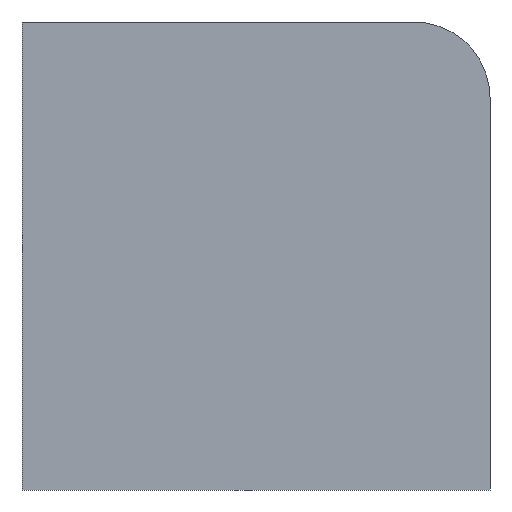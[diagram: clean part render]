
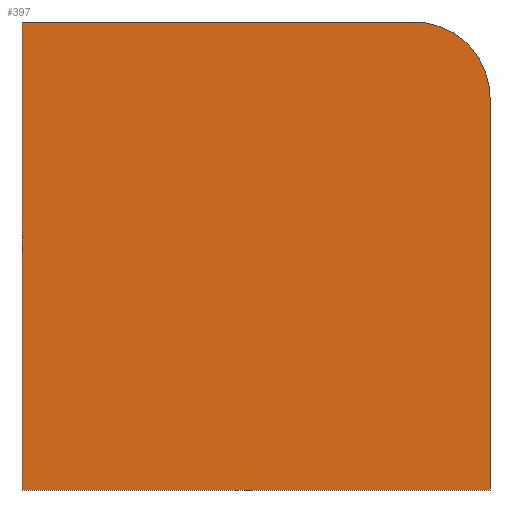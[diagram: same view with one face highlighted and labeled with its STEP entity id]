
A CAD part, front view. The second image highlights one B-rep face of the part: STEP entity #397.
In plain terms, the highlighted planar face has unit normal (0, -1, 0).
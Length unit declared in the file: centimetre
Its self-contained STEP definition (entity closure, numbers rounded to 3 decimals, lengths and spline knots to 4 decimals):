
#7 = CARTESIAN_POINT ( 'NONE',  ( 0., 0., 1000. ) ) ;
#8 = DIRECTION ( 'NONE',  ( 0., 0., -1. ) ) ;
#11 = VECTOR ( 'NONE', #180, 100. ) ;
#16 = PLANE ( 'NONE',  #297 ) ;
#36 = ORIENTED_EDGE ( 'NONE', *, *, #383, .F. ) ;
#40 = VECTOR ( 'NONE', #8, 100. ) ;
#48 = LINE ( 'NONE', #542, #216 ) ;
#56 = DIRECTION ( 'NONE',  ( 0., -1., 0. ) ) ;
#90 = DIRECTION ( 'NONE',  ( 0., 1., 0. ) ) ;
#100 = CIRCLE ( 'NONE', #281, 162.13 ) ;
#102 = CARTESIAN_POINT ( 'NONE',  ( 837.87, 0., 837.87 ) ) ;
#119 = VERTEX_POINT ( 'NONE', #355 ) ;
#159 = ORIENTED_EDGE ( 'NONE', *, *, #366, .T. ) ;
#180 = DIRECTION ( 'NONE',  ( 0., 0., -1. ) ) ;
#216 = VECTOR ( 'NONE', #464, 100. ) ;
#242 = EDGE_LOOP ( 'NONE', ( #36, #159, #417, #334, #331 ) ) ;
#245 = CARTESIAN_POINT ( 'NONE',  ( 1000., 0., 837.87 ) ) ;
#247 = VERTEX_POINT ( 'NONE', #245 ) ;
#249 = VERTEX_POINT ( 'NONE', #411 ) ;
#276 = CARTESIAN_POINT ( 'NONE',  ( 0., 0., 1000. ) ) ;
#281 = AXIS2_PLACEMENT_3D ( 'NONE', #102, #56, #403 ) ;
#297 = AXIS2_PLACEMENT_3D ( 'NONE', #302, #90, #441 ) ;
#302 = CARTESIAN_POINT ( 'NONE',  ( 0., 0., 1000. ) ) ;
#310 = DIRECTION ( 'NONE',  ( 1., 0., 0. ) ) ;
#331 = ORIENTED_EDGE ( 'NONE', *, *, #545, .T. ) ;
#334 = ORIENTED_EDGE ( 'NONE', *, *, #406, .T. ) ;
#345 = LINE ( 'NONE', #509, #11 ) ;
#348 = CARTESIAN_POINT ( 'NONE',  ( 837.87, 0., 1000. ) ) ;
#355 = CARTESIAN_POINT ( 'NONE',  ( 0., 0., 1000. ) ) ;
#358 = LINE ( 'NONE', #276, #40 ) ;
#366 = EDGE_CURVE ( 'NONE', #247, #500, #100, .T. ) ;
#383 = EDGE_CURVE ( 'NONE', #247, #249, #345, .T. ) ;
#391 = LINE ( 'NONE', #7, #438 ) ;
#397 = ADVANCED_FACE ( 'NONE', ( #524 ), #16, .F. ) ;
#403 = DIRECTION ( 'NONE',  ( 0., 0., 1. ) ) ;
#406 = EDGE_CURVE ( 'NONE', #119, #537, #358, .T. ) ;
#411 = CARTESIAN_POINT ( 'NONE',  ( 1000., 0., 0. ) ) ;
#417 = ORIENTED_EDGE ( 'NONE', *, *, #490, .F. ) ;
#438 = VECTOR ( 'NONE', #310, 100. ) ;
#441 = DIRECTION ( 'NONE',  ( 0., 0., 1. ) ) ;
#464 = DIRECTION ( 'NONE',  ( 1., 0., 0. ) ) ;
#490 = EDGE_CURVE ( 'NONE', #119, #500, #391, .T. ) ;
#499 = CARTESIAN_POINT ( 'NONE',  ( 0., 0., 0. ) ) ;
#500 = VERTEX_POINT ( 'NONE', #348 ) ;
#509 = CARTESIAN_POINT ( 'NONE',  ( 1000., 0., 1000. ) ) ;
#524 = FACE_OUTER_BOUND ( 'NONE', #242, .T. ) ;
#537 = VERTEX_POINT ( 'NONE', #499 ) ;
#542 = CARTESIAN_POINT ( 'NONE',  ( 0., 0., 0. ) ) ;
#545 = EDGE_CURVE ( 'NONE', #537, #249, #48, .T. ) ;
